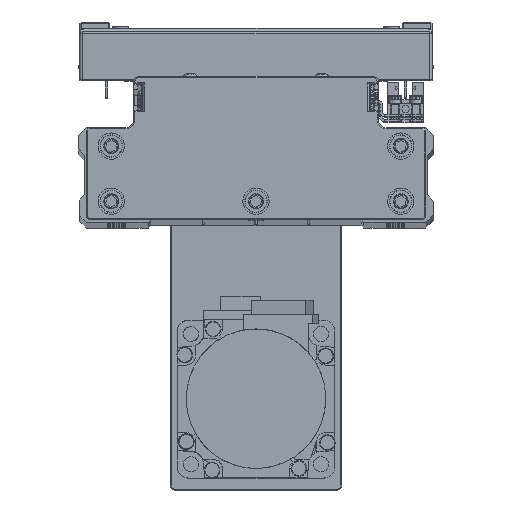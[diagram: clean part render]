
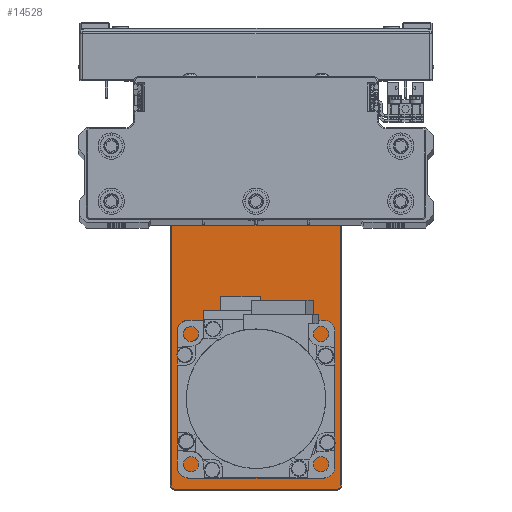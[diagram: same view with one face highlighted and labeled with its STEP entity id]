
A CAD part, top view. The second image highlights one B-rep face of the part: STEP entity #14528.
In plain terms, the highlighted planar face has unit normal (0, 0, 1) as drawn and (0, 1, 0) by its records, which use the part's own axes.
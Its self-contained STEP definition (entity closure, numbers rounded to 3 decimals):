
#46 = AXIS2_PLACEMENT_3D ( 'NONE', #26143, #39987, #8940 ) ;
#801 = EDGE_LOOP ( 'NONE', ( #1832, #4514 ) ) ;
#1092 = FACE_OUTER_BOUND ( 'NONE', #26437, .T. ) ;
#1143 = CARTESIAN_POINT ( 'NONE',  ( -50.5, 6., 15. ) ) ;
#1406 = CARTESIAN_POINT ( 'NONE',  ( 0., 6., 32.2 ) ) ;
#1458 = VERTEX_POINT ( 'NONE', #6954 ) ;
#1610 = CIRCLE ( 'NONE', #26963, 10.3 ) ;
#1734 = DIRECTION ( 'NONE',  ( 0., 1., 0. ) ) ;
#1832 = ORIENTED_EDGE ( 'NONE', *, *, #36163, .F. ) ;
#1841 = AXIS2_PLACEMENT_3D ( 'NONE', #37386, #6329, #20150 ) ;
#2002 = CARTESIAN_POINT ( 'NONE',  ( 61.051, 6., 23.492 ) ) ;
#2224 = EDGE_CURVE ( 'NONE', #37339, #35549, #37067, .T. ) ;
#2312 = LINE ( 'NONE', #16159, #34121 ) ;
#2855 = EDGE_CURVE ( 'NONE', #43644, #29283, #42174, .T. ) ;
#2989 = CARTESIAN_POINT ( 'NONE',  ( 83.5, 6., 31. ) ) ;
#3023 = CIRCLE ( 'NONE', #28362, 1.525 ) ;
#3489 = LINE ( 'NONE', #17333, #43976 ) ;
#3541 = CARTESIAN_POINT ( 'NONE',  ( -83.5, 6., 32.2 ) ) ;
#3975 = CARTESIAN_POINT ( 'NONE',  ( 84.7, 6., -31. ) ) ;
#4086 = VERTEX_POINT ( 'NONE', #1143 ) ;
#4498 = FACE_BOUND ( 'NONE', #801, .T. ) ;
#4514 = ORIENTED_EDGE ( 'NONE', *, *, #2855, .F. ) ;
#4554 = DIRECTION ( 'NONE',  ( 0., 0., 1. ) ) ;
#4575 = AXIS2_PLACEMENT_3D ( 'NONE', #12608, #26425, #40255 ) ;
#4853 = EDGE_CURVE ( 'NONE', #1458, #10290, #26335, .T. ) ;
#5050 = DIRECTION ( 'NONE',  ( 0., -1., 0. ) ) ;
#6074 = AXIS2_PLACEMENT_3D ( 'NONE', #27022, #40864, #9825 ) ;
#6329 = DIRECTION ( 'NONE',  ( 0., 1., 0. ) ) ;
#6801 = AXIS2_PLACEMENT_3D ( 'NONE', #36116, #5050, #18905 ) ;
#6931 = CARTESIAN_POINT ( 'NONE',  ( 61.051, 6., 21.967 ) ) ;
#6954 = CARTESIAN_POINT ( 'NONE',  ( 52.5, 6., -10.3 ) ) ;
#7110 = LINE ( 'NONE', #20931, #38562 ) ;
#7383 = EDGE_CURVE ( 'NONE', #22949, #28338, #21403, .T. ) ;
#7611 = AXIS2_PLACEMENT_3D ( 'NONE', #10833, #24638, #38484 ) ;
#8923 = ORIENTED_EDGE ( 'NONE', *, *, #43892, .F. ) ;
#8940 = DIRECTION ( 'NONE',  ( 0., 0., 1. ) ) ;
#9044 = AXIS2_PLACEMENT_3D ( 'NONE', #32812, #1734, #15579 ) ;
#9629 = DIRECTION ( 'NONE',  ( 0., 0., -1. ) ) ;
#9825 = DIRECTION ( 'NONE',  ( 0., 0., -1. ) ) ;
#9962 = ORIENTED_EDGE ( 'NONE', *, *, #10622, .T. ) ;
#10290 = VERTEX_POINT ( 'NONE', #35411 ) ;
#10534 = CARTESIAN_POINT ( 'NONE',  ( -83.5, 6., -31. ) ) ;
#10622 = EDGE_CURVE ( 'NONE', #28783, #37809, #27143, .T. ) ;
#10833 = CARTESIAN_POINT ( 'NONE',  ( -83.5, 6., 31. ) ) ;
#11527 = DIRECTION ( 'NONE',  ( 0., -1., 0. ) ) ;
#12031 = CARTESIAN_POINT ( 'NONE',  ( 61.051, 6., 25.017 ) ) ;
#12608 = CARTESIAN_POINT ( 'NONE',  ( -50.5, 6., 0. ) ) ;
#14050 = ORIENTED_EDGE ( 'NONE', *, *, #28080, .T. ) ;
#14528 = ADVANCED_FACE ( 'NONE', ( #4498, #18353, #32171, #1092, #14935 ), #28750, .F. ) ;
#14935 = FACE_BOUND ( 'NONE', #43888, .T. ) ;
#15037 = CIRCLE ( 'NONE', #40380, 1.2 ) ;
#15254 = DIRECTION ( 'NONE',  ( 1., 0., 0. ) ) ;
#15284 = CARTESIAN_POINT ( 'NONE',  ( 75.992, 6., -7.026 ) ) ;
#15579 = DIRECTION ( 'NONE',  ( 0., 0., 1. ) ) ;
#15711 = CARTESIAN_POINT ( 'NONE',  ( 75.992, 6., -10.076 ) ) ;
#15832 = ORIENTED_EDGE ( 'NONE', *, *, #18499, .F. ) ;
#15846 = DIRECTION ( 'NONE',  ( 0., 1., 0. ) ) ;
#15904 = ORIENTED_EDGE ( 'NONE', *, *, #4853, .T. ) ;
#16017 = ORIENTED_EDGE ( 'NONE', *, *, #28258, .T. ) ;
#16020 = ORIENTED_EDGE ( 'NONE', *, *, #2224, .T. ) ;
#16159 = CARTESIAN_POINT ( 'NONE',  ( -84.7, 6., 0. ) ) ;
#16547 = ORIENTED_EDGE ( 'NONE', *, *, #39195, .F. ) ;
#16840 = DIRECTION ( 'NONE',  ( 0., 1., 0. ) ) ;
#17035 = VERTEX_POINT ( 'NONE', #33583 ) ;
#17333 = CARTESIAN_POINT ( 'NONE',  ( 0., 6., -32.2 ) ) ;
#17530 = AXIS2_PLACEMENT_3D ( 'NONE', #10534, #24338, #38172 ) ;
#18353 = FACE_BOUND ( 'NONE', #20136, .T. ) ;
#18499 = EDGE_CURVE ( 'NONE', #4086, #38028, #28580, .T. ) ;
#18905 = DIRECTION ( 'NONE',  ( 0., 0., -1. ) ) ;
#19279 = CARTESIAN_POINT ( 'NONE',  ( 84.7, 6., 31. ) ) ;
#19975 = ORIENTED_EDGE ( 'NONE', *, *, #37048, .T. ) ;
#20136 = EDGE_LOOP ( 'NONE', ( #29461, #8923 ) ) ;
#20150 = DIRECTION ( 'NONE',  ( 0., 0., 1. ) ) ;
#20931 = CARTESIAN_POINT ( 'NONE',  ( 84.7, 6., 0. ) ) ;
#21403 = CIRCLE ( 'NONE', #1841, 1.525 ) ;
#21774 = CARTESIAN_POINT ( 'NONE',  ( 61.051, 6., 23.492 ) ) ;
#22431 = CARTESIAN_POINT ( 'NONE',  ( 83.5, 6., -32.2 ) ) ;
#22433 = CARTESIAN_POINT ( 'NONE',  ( -84.7, 6., 31. ) ) ;
#22627 = AXIS2_PLACEMENT_3D ( 'NONE', #21774, #35610, #4554 ) ;
#22862 = VERTEX_POINT ( 'NONE', #3975 ) ;
#22949 = VERTEX_POINT ( 'NONE', #15284 ) ;
#24114 = CIRCLE ( 'NONE', #4575, 15. ) ;
#24338 = DIRECTION ( 'NONE',  ( 0., 1., 0. ) ) ;
#24357 = EDGE_CURVE ( 'NONE', #10290, #1458, #1610, .T. ) ;
#24638 = DIRECTION ( 'NONE',  ( 0., 1., 0. ) ) ;
#25336 = DIRECTION ( 'NONE',  ( 0., 0., -1. ) ) ;
#25597 = CIRCLE ( 'NONE', #6074, 1.2 ) ;
#26143 = CARTESIAN_POINT ( 'NONE',  ( 75.992, 6., -8.551 ) ) ;
#26335 = CIRCLE ( 'NONE', #6801, 10.3 ) ;
#26425 = DIRECTION ( 'NONE',  ( 0., 1., 0. ) ) ;
#26437 = EDGE_LOOP ( 'NONE', ( #42605, #14050, #16020, #39252, #9962, #16017, #36885, #19975 ) ) ;
#26825 = CARTESIAN_POINT ( 'NONE',  ( 52.5, 6., 0. ) ) ;
#26963 = AXIS2_PLACEMENT_3D ( 'NONE', #26825, #40670, #9629 ) ;
#27022 = CARTESIAN_POINT ( 'NONE',  ( 83.5, 6., -31. ) ) ;
#27143 = CIRCLE ( 'NONE', #7611, 1.2 ) ;
#27218 = EDGE_CURVE ( 'NONE', #22862, #38789, #25597, .T. ) ;
#28080 = EDGE_CURVE ( 'NONE', #38789, #37339, #3489, .T. ) ;
#28258 = EDGE_CURVE ( 'NONE', #37809, #17035, #32497, .T. ) ;
#28338 = VERTEX_POINT ( 'NONE', #15711 ) ;
#28362 = AXIS2_PLACEMENT_3D ( 'NONE', #2002, #15846, #29667 ) ;
#28477 = EDGE_CURVE ( 'NONE', #17035, #28815, #15037, .T. ) ;
#28580 = CIRCLE ( 'NONE', #9044, 15. ) ;
#28750 = PLANE ( 'NONE',  #34694 ) ;
#28783 = VERTEX_POINT ( 'NONE', #22433 ) ;
#28815 = VERTEX_POINT ( 'NONE', #19279 ) ;
#29283 = VERTEX_POINT ( 'NONE', #12031 ) ;
#29461 = ORIENTED_EDGE ( 'NONE', *, *, #7383, .F. ) ;
#29502 = VECTOR ( 'NONE', #15254, 1000. ) ;
#29667 = DIRECTION ( 'NONE',  ( 0., 0., 1. ) ) ;
#29816 = CARTESIAN_POINT ( 'NONE',  ( -50.5, 6., -15. ) ) ;
#30598 = DIRECTION ( 'NONE',  ( 0., 0., 1. ) ) ;
#30667 = DIRECTION ( 'NONE',  ( 0., 0., -1. ) ) ;
#30754 = CARTESIAN_POINT ( 'NONE',  ( -84.7, 6., -31. ) ) ;
#30992 = ORIENTED_EDGE ( 'NONE', *, *, #24357, .T. ) ;
#31145 = DIRECTION ( 'NONE',  ( -1., 0., 0. ) ) ;
#32171 = FACE_BOUND ( 'NONE', #43184, .T. ) ;
#32497 = LINE ( 'NONE', #1406, #29502 ) ;
#32812 = CARTESIAN_POINT ( 'NONE',  ( -50.5, 6., 0. ) ) ;
#33379 = CARTESIAN_POINT ( 'NONE',  ( -83.5, 6., -32.2 ) ) ;
#33583 = CARTESIAN_POINT ( 'NONE',  ( 83.5, 6., 32.2 ) ) ;
#34121 = VECTOR ( 'NONE', #30598, 1000. ) ;
#34694 = AXIS2_PLACEMENT_3D ( 'NONE', #42575, #11527, #25336 ) ;
#34759 = DIRECTION ( 'NONE',  ( 0., 0., -1. ) ) ;
#35411 = CARTESIAN_POINT ( 'NONE',  ( 52.5, 6., 10.3 ) ) ;
#35549 = VERTEX_POINT ( 'NONE', #30754 ) ;
#35610 = DIRECTION ( 'NONE',  ( 0., 1., 0. ) ) ;
#36116 = CARTESIAN_POINT ( 'NONE',  ( 52.5, 6., 0. ) ) ;
#36163 = EDGE_CURVE ( 'NONE', #29283, #43644, #3023, .T. ) ;
#36885 = ORIENTED_EDGE ( 'NONE', *, *, #28477, .T. ) ;
#37048 = EDGE_CURVE ( 'NONE', #28815, #22862, #7110, .T. ) ;
#37067 = CIRCLE ( 'NONE', #17530, 1.2 ) ;
#37339 = VERTEX_POINT ( 'NONE', #33379 ) ;
#37356 = EDGE_CURVE ( 'NONE', #35549, #28783, #2312, .T. ) ;
#37386 = CARTESIAN_POINT ( 'NONE',  ( 75.992, 6., -8.551 ) ) ;
#37809 = VERTEX_POINT ( 'NONE', #3541 ) ;
#38028 = VERTEX_POINT ( 'NONE', #29816 ) ;
#38172 = DIRECTION ( 'NONE',  ( 0., 0., -1. ) ) ;
#38484 = DIRECTION ( 'NONE',  ( 0., 0., -1. ) ) ;
#38562 = VECTOR ( 'NONE', #34759, 1000. ) ;
#38789 = VERTEX_POINT ( 'NONE', #22431 ) ;
#39150 = CIRCLE ( 'NONE', #46, 1.525 ) ;
#39195 = EDGE_CURVE ( 'NONE', #38028, #4086, #24114, .T. ) ;
#39252 = ORIENTED_EDGE ( 'NONE', *, *, #37356, .T. ) ;
#39987 = DIRECTION ( 'NONE',  ( 0., 1., 0. ) ) ;
#40255 = DIRECTION ( 'NONE',  ( 0., 0., 1. ) ) ;
#40380 = AXIS2_PLACEMENT_3D ( 'NONE', #2989, #16840, #30667 ) ;
#40670 = DIRECTION ( 'NONE',  ( 0., -1., 0. ) ) ;
#40864 = DIRECTION ( 'NONE',  ( 0., 1., 0. ) ) ;
#42174 = CIRCLE ( 'NONE', #22627, 1.525 ) ;
#42575 = CARTESIAN_POINT ( 'NONE',  ( 0., 6., 0. ) ) ;
#42605 = ORIENTED_EDGE ( 'NONE', *, *, #27218, .T. ) ;
#43184 = EDGE_LOOP ( 'NONE', ( #30992, #15904 ) ) ;
#43644 = VERTEX_POINT ( 'NONE', #6931 ) ;
#43888 = EDGE_LOOP ( 'NONE', ( #15832, #16547 ) ) ;
#43892 = EDGE_CURVE ( 'NONE', #28338, #22949, #39150, .T. ) ;
#43976 = VECTOR ( 'NONE', #31145, 1000. ) ;
